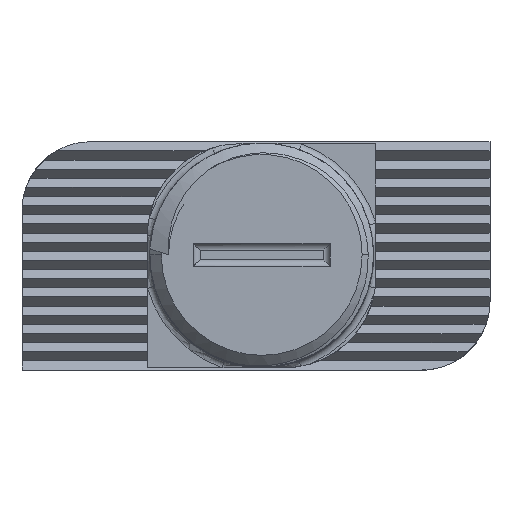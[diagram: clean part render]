
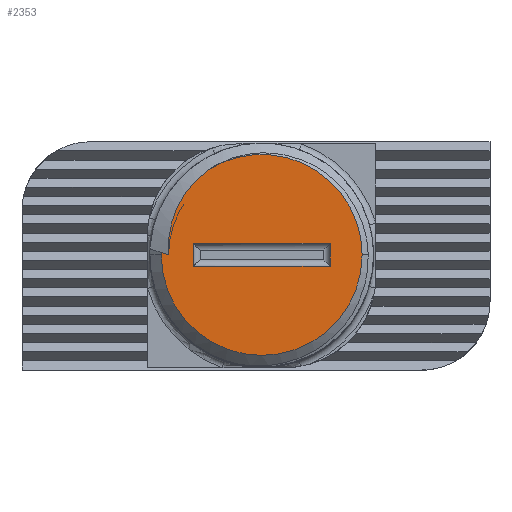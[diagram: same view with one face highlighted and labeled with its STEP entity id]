
A CAD part, top view. The second image highlights one B-rep face of the part: STEP entity #2353.
In plain terms, the highlighted planar face has unit normal (0, 0, 1).
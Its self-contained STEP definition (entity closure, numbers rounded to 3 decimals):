
#19 = VERTEX_POINT ( 'NONE', #1965 ) ;
#23 = CARTESIAN_POINT ( 'NONE',  ( -4.038, 2.746, 29.5 ) ) ;
#259 = EDGE_LOOP ( 'NONE', ( #1403, #3316, #1566, #1232 ) ) ;
#288 = DIRECTION ( 'NONE',  ( 1., 0., 0. ) ) ;
#336 = DIRECTION ( 'NONE',  ( 0., 0., 1. ) ) ;
#499 = CARTESIAN_POINT ( 'NONE',  ( -3.919, 2.875, 29.5 ) ) ;
#539 = VECTOR ( 'NONE', #3640, 1000. ) ;
#661 = LINE ( 'NONE', #1622, #539 ) ;
#756 = LINE ( 'NONE', #3609, #4938 ) ;
#774 = VERTEX_POINT ( 'NONE', #6008 ) ;
#906 = CARTESIAN_POINT ( 'NONE',  ( -5.399, -0.252, 29.5 ) ) ;
#994 = EDGE_CURVE ( 'NONE', #774, #2815, #5674, .T. ) ;
#1109 = CARTESIAN_POINT ( 'NONE',  ( -4.951, 1.052, 29.5 ) ) ;
#1232 = ORIENTED_EDGE ( 'NONE', *, *, #5487, .F. ) ;
#1251 = DIRECTION ( 'NONE',  ( 0., 0., 1. ) ) ;
#1403 = ORIENTED_EDGE ( 'NONE', *, *, #5502, .F. ) ;
#1422 = EDGE_CURVE ( 'NONE', #2917, #774, #2149, .T. ) ;
#1566 = ORIENTED_EDGE ( 'NONE', *, *, #6172, .F. ) ;
#1621 = CARTESIAN_POINT ( 'NONE',  ( -4., 0.147, 29.5 ) ) ;
#1622 = CARTESIAN_POINT ( 'NONE',  ( -4., -0.853, 29.5 ) ) ;
#1846 = AXIS2_PLACEMENT_3D ( 'NONE', #5277, #336, #4248 ) ;
#1888 = VERTEX_POINT ( 'NONE', #5314 ) ;
#1952 = VERTEX_POINT ( 'NONE', #5775 ) ;
#1965 = CARTESIAN_POINT ( 'NONE',  ( 2., -0.853, 29.5 ) ) ;
#1980 = CARTESIAN_POINT ( 'NONE',  ( -3.665, 3.12, 29.5 ) ) ;
#2048 = AXIS2_PLACEMENT_3D ( 'NONE', #4194, #1251, #288 ) ;
#2101 = CARTESIAN_POINT ( 'NONE',  ( -5.08, -0.353, 29.5 ) ) ;
#2120 = EDGE_CURVE ( 'NONE', #2294, #1888, #4532, .T. ) ;
#2149 = CIRCLE ( 'NONE', #2048, 4.4 ) ;
#2153 = EDGE_CURVE ( 'NONE', #5362, #2815, #3137, .T. ) ;
#2294 = VERTEX_POINT ( 'NONE', #3834 ) ;
#2353 = ADVANCED_FACE ( 'NONE', ( #3864, #5768 ), #4371, .T. ) ;
#2354 = CARTESIAN_POINT ( 'NONE',  ( -1.371, -1.526, 29.5 ) ) ;
#2361 = EDGE_CURVE ( 'NONE', #4820, #2917, #5855, .T. ) ;
#2494 = DIRECTION ( 'NONE',  ( -1., 0., 0. ) ) ;
#2603 = CARTESIAN_POINT ( 'NONE',  ( -1., -0.353, 29.5 ) ) ;
#2815 = VERTEX_POINT ( 'NONE', #4152 ) ;
#2861 = EDGE_LOOP ( 'NONE', ( #6007, #4055, #4360, #4179, #6013 ) ) ;
#2896 = AXIS2_PLACEMENT_3D ( 'NONE', #2603, #4555, #5103 ) ;
#2917 = VERTEX_POINT ( 'NONE', #4122 ) ;
#2937 = CARTESIAN_POINT ( 'NONE',  ( -4.561, 2.031, 29.5 ) ) ;
#2968 = CARTESIAN_POINT ( 'NONE',  ( -5.088, 0.355, 29.5 ) ) ;
#2993 = LINE ( 'NONE', #4980, #6075 ) ;
#3004 = CARTESIAN_POINT ( 'NONE',  ( -4.845, 1.388, 29.5 ) ) ;
#3060 = CARTESIAN_POINT ( 'NONE',  ( -4.781, 1.552, 29.5 ) ) ;
#3137 = B_SPLINE_CURVE_WITH_KNOTS ( 'NONE', 3,
 ( #2101, #3576, #2968, #5935, #1109, #3004, #3060, #2937, #4895, #23, #499, #1980, #6146, #4149 ),
 .UNSPECIFIED., .F., .F.,
 ( 4, 2, 2, 2, 2, 2, 4 ),
 ( 0., 0.001, 0.002, 0.002, 0.003, 0.004, 0.004 ),
 .UNSPECIFIED. ) ;
#3252 = DIRECTION ( 'NONE',  ( -0.953, 0.301, 0. ) ) ;
#3283 = DIRECTION ( 'NONE',  ( 0., 0., 1. ) ) ;
#3316 = ORIENTED_EDGE ( 'NONE', *, *, #2120, .F. ) ;
#3384 = VECTOR ( 'NONE', #2494, 1000. ) ;
#3497 = EDGE_CURVE ( 'NONE', #5362, #4820, #4826, .T. ) ;
#3576 = CARTESIAN_POINT ( 'NONE',  ( -5.106, 0.003, 29.5 ) ) ;
#3609 = CARTESIAN_POINT ( 'NONE',  ( -4., 0.147, 29.5 ) ) ;
#3640 = DIRECTION ( 'NONE',  ( 1., 0., 0. ) ) ;
#3805 = VECTOR ( 'NONE', #3252, 1000. ) ;
#3834 = CARTESIAN_POINT ( 'NONE',  ( 2., 0.147, 29.5 ) ) ;
#3864 = FACE_BOUND ( 'NONE', #259, .T. ) ;
#4055 = ORIENTED_EDGE ( 'NONE', *, *, #2361, .T. ) ;
#4122 = CARTESIAN_POINT ( 'NONE',  ( -5.4, -0.353, 29.5 ) ) ;
#4149 = CARTESIAN_POINT ( 'NONE',  ( -3.388, 3.343, 29.5 ) ) ;
#4152 = CARTESIAN_POINT ( 'NONE',  ( -3.388, 3.343, 29.5 ) ) ;
#4179 = ORIENTED_EDGE ( 'NONE', *, *, #994, .T. ) ;
#4194 = CARTESIAN_POINT ( 'NONE',  ( -1., -0.353, 29.5 ) ) ;
#4248 = DIRECTION ( 'NONE',  ( 1., 0., 0. ) ) ;
#4360 = ORIENTED_EDGE ( 'NONE', *, *, #1422, .T. ) ;
#4371 = PLANE ( 'NONE',  #5122 ) ;
#4532 = LINE ( 'NONE', #1621, #3384 ) ;
#4555 = DIRECTION ( 'NONE',  ( 0., 0., 1. ) ) ;
#4570 = CARTESIAN_POINT ( 'NONE',  ( -5.08, -0.353, 29.5 ) ) ;
#4728 = DIRECTION ( 'NONE',  ( 1., 0., 0. ) ) ;
#4820 = VERTEX_POINT ( 'NONE', #906 ) ;
#4826 = LINE ( 'NONE', #2354, #3805 ) ;
#4895 = CARTESIAN_POINT ( 'NONE',  ( -4.371, 2.337, 29.5 ) ) ;
#4938 = VECTOR ( 'NONE', #6147, 1000. ) ;
#4980 = CARTESIAN_POINT ( 'NONE',  ( 2., 0.147, 29.5 ) ) ;
#5103 = DIRECTION ( 'NONE',  ( 1., 0., 0. ) ) ;
#5122 = AXIS2_PLACEMENT_3D ( 'NONE', #6338, #3283, #4728 ) ;
#5277 = CARTESIAN_POINT ( 'NONE',  ( -1., -0.353, 29.5 ) ) ;
#5314 = CARTESIAN_POINT ( 'NONE',  ( -4., 0.147, 29.5 ) ) ;
#5362 = VERTEX_POINT ( 'NONE', #4570 ) ;
#5397 = DIRECTION ( 'NONE',  ( 0., 1., 0. ) ) ;
#5487 = EDGE_CURVE ( 'NONE', #1952, #19, #661, .T. ) ;
#5502 = EDGE_CURVE ( 'NONE', #1888, #1952, #756, .T. ) ;
#5674 = CIRCLE ( 'NONE', #2896, 4.4 ) ;
#5768 = FACE_OUTER_BOUND ( 'NONE', #2861, .T. ) ;
#5775 = CARTESIAN_POINT ( 'NONE',  ( -4., -0.853, 29.5 ) ) ;
#5855 = CIRCLE ( 'NONE', #1846, 4.4 ) ;
#5935 = CARTESIAN_POINT ( 'NONE',  ( -4.994, 0.878, 29.5 ) ) ;
#6007 = ORIENTED_EDGE ( 'NONE', *, *, #3497, .T. ) ;
#6008 = CARTESIAN_POINT ( 'NONE',  ( 3.4, -0.353, 29.5 ) ) ;
#6013 = ORIENTED_EDGE ( 'NONE', *, *, #2153, .F. ) ;
#6075 = VECTOR ( 'NONE', #5397, 1000. ) ;
#6146 = CARTESIAN_POINT ( 'NONE',  ( -3.529, 3.236, 29.5 ) ) ;
#6147 = DIRECTION ( 'NONE',  ( 0., -1., 0. ) ) ;
#6172 = EDGE_CURVE ( 'NONE', #19, #2294, #2993, .T. ) ;
#6338 = CARTESIAN_POINT ( 'NONE',  ( -1., -0.353, 29.5 ) ) ;
